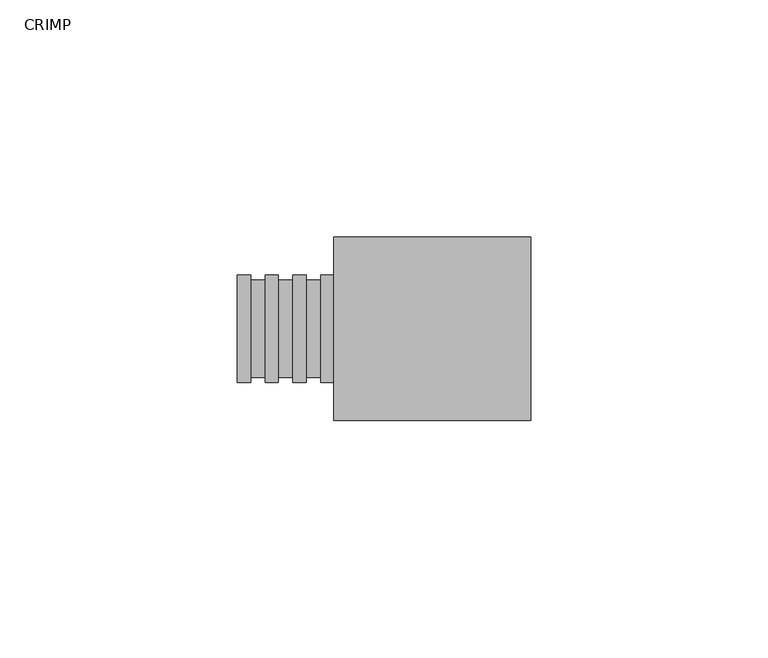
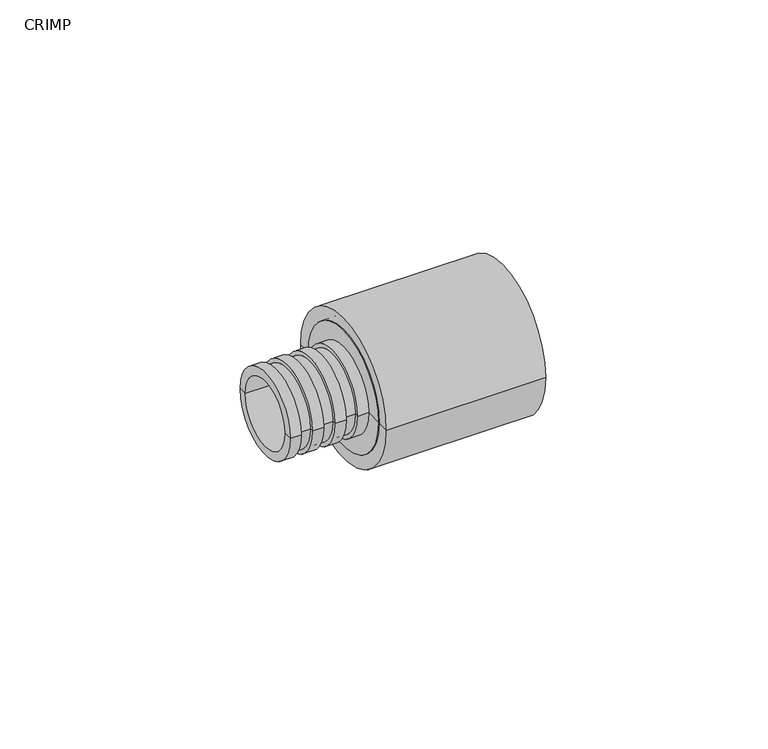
"""IFC4 building model written with IfcOpenShell, lengths in millimetres: valve geometry, Aquatherm - PEX Adapter Crimp : CRIMP."""

from ifc_helpers import new_model, si_unit, frame, origin, place, context, project, spatial, polyline, circle_curve, source, transform, mapped, element, save
from ifc_brep_helpers import plane_surface, cylinder_surface, revolved_surface, advanced_brep


def crimp_2105ca63(model_context):
    return source(origin(), model_context, "Body", "AdvancedBrep", [
        advanced_brep(
        [(3.175, -9.017, 0.0), (3.175, 9.017, 0.0), (-20.32, 9.017, 0.0), (-20.32, -9.017, 0.0), (3.175, -15.875, 0.0), (3.175, 15.875, 0.0), (-20.32, 11.303, 0.0), (-20.32, -11.303, 0.0), (-2.794, -11.303, 0.0), (-2.794, 11.303, 0.0), (0.0, 11.303, 0.0), (0.0, -11.303, 0.0), (-2.794, -10.287, 0.0), (-2.794, 10.287, 0.0), (-5.842, -10.287, 0.0), (-5.842, 10.287, 0.0), (-5.842, -11.303, 0.0), (-5.842, 11.303, 0.0), (-8.636, -11.303, 0.0), (-8.636, 11.303, 0.0), (-8.636, -10.287, 0.0), (-8.636, 10.287, 0.0), (-11.684, -10.287, 0.0), (-11.684, 10.287, 0.0), (-11.684, -11.303, 0.0), (-11.684, 11.303, 0.0), (-14.478, -11.303, 0.0), (-14.478, 11.303, 0.0), (-14.478, -10.287, 0.0), (-14.478, 10.287, 0.0), (-17.526, -10.287, 0.0), (-17.526, 10.287, 0.0), (-17.526, -11.303, 0.0), (-17.526, 11.303, 0.0), (0.0, -15.875, 0.0), (0.0, 15.875, 0.0)],
        [
            (0, 1, circle_curve(frame((3.175, 0.0, 0.0), z_axis=(1.0, 0.0, 0.0), x_axis=(0.0, 1.0, 0.0)), 9.017)),
            (1, 2),
            (2, 3, circle_curve(frame((-20.32, 0.0, 0.0), z_axis=(-1.0, 0.0, 0.0), x_axis=(0.0, 1.0, 0.0)), 9.017)),
            (3, 0),
            (1, 0, circle_curve(frame((3.175, 0.0, 0.0), z_axis=(1.0, 0.0, 0.0), x_axis=(0.0, 1.0, 0.0)), 9.017)),
            (3, 2, circle_curve(frame((-20.32, 0.0, 0.0), z_axis=(-1.0, 0.0, 0.0), x_axis=(0.0, 1.0, 0.0)), 9.017)),
            (4, 5, circle_curve(frame((3.175, 0.0, 0.0), z_axis=(1.0, 0.0, 0.0), x_axis=(0.0, 1.0, 0.0)), 15.875)),
            (5, 1),
            (0, 4),
            (5, 4, circle_curve(frame((3.175, 0.0, 0.0), z_axis=(1.0, 0.0, 0.0), x_axis=(0.0, 1.0, 0.0)), 15.875)),
            (2, 6),
            (6, 7, circle_curve(frame((-20.32, 0.0, 0.0), z_axis=(-1.0, 0.0, 0.0), x_axis=(0.0, 1.0, 0.0)), 11.303)),
            (7, 3),
            (7, 6, circle_curve(frame((-20.32, 0.0, 0.0), z_axis=(-1.0, 0.0, 0.0), x_axis=(0.0, 1.0, 0.0)), 11.303)),
            (8, 9, circle_curve(frame((-2.794, 0.0, 0.0), z_axis=(1.0, 0.0, 0.0), x_axis=(0.0, 1.0, 0.0)), 11.303)),
            (9, 10),
            (10, 11, circle_curve(frame((0.0, 0.0, 0.0), z_axis=(-1.0, 0.0, 0.0), x_axis=(0.0, 1.0, 0.0)), 11.303)),
            (11, 8),
            (9, 8, circle_curve(frame((-2.794, 0.0, 0.0), z_axis=(1.0, 0.0, 0.0), x_axis=(0.0, 1.0, 0.0)), 11.303)),
            (11, 10, circle_curve(frame((0.0, 0.0, 0.0), z_axis=(-1.0, 0.0, 0.0), x_axis=(0.0, 1.0, 0.0)), 11.303)),
            (12, 13, circle_curve(frame((-2.794, 0.0, 0.0), z_axis=(1.0, 0.0, 0.0), x_axis=(0.0, 1.0, 0.0)), 10.287)),
            (13, 9),
            (8, 12),
            (13, 12, circle_curve(frame((-2.794, 0.0, 0.0), z_axis=(1.0, 0.0, 0.0), x_axis=(0.0, 1.0, 0.0)), 10.287)),
            (14, 15, circle_curve(frame((-5.842, 0.0, 0.0), z_axis=(1.0, 0.0, 0.0), x_axis=(0.0, 1.0, 0.0)), 10.287)),
            (15, 13),
            (12, 14),
            (15, 14, circle_curve(frame((-5.842, 0.0, 0.0), z_axis=(1.0, 0.0, 0.0), x_axis=(0.0, 1.0, 0.0)), 10.287)),
            (16, 17, circle_curve(frame((-5.842, 0.0, 0.0), z_axis=(1.0, 0.0, 0.0), x_axis=(0.0, 1.0, 0.0)), 11.303)),
            (17, 15),
            (14, 16),
            (17, 16, circle_curve(frame((-5.842, 0.0, 0.0), z_axis=(1.0, 0.0, 0.0), x_axis=(0.0, 1.0, 0.0)), 11.303)),
            (18, 19, circle_curve(frame((-8.636, 0.0, 0.0), z_axis=(1.0, 0.0, 0.0), x_axis=(0.0, 1.0, 0.0)), 11.303)),
            (19, 17),
            (16, 18),
            (19, 18, circle_curve(frame((-8.636, 0.0, 0.0), z_axis=(1.0, 0.0, 0.0), x_axis=(0.0, 1.0, 0.0)), 11.303)),
            (20, 21, circle_curve(frame((-8.636, 0.0, 0.0), z_axis=(1.0, 0.0, 0.0), x_axis=(0.0, 1.0, 0.0)), 10.287)),
            (21, 19),
            (18, 20),
            (21, 20, circle_curve(frame((-8.636, 0.0, 0.0), z_axis=(1.0, 0.0, 0.0), x_axis=(0.0, 1.0, 0.0)), 10.287)),
            (22, 23, circle_curve(frame((-11.684, 0.0, 0.0), z_axis=(1.0, 0.0, 0.0), x_axis=(0.0, 1.0, 0.0)), 10.287)),
            (23, 21),
            (20, 22),
            (23, 22, circle_curve(frame((-11.684, 0.0, 0.0), z_axis=(1.0, 0.0, 0.0), x_axis=(0.0, 1.0, 0.0)), 10.287)),
            (24, 25, circle_curve(frame((-11.684, 0.0, 0.0), z_axis=(1.0, 0.0, 0.0), x_axis=(0.0, 1.0, 0.0)), 11.303)),
            (25, 23),
            (22, 24),
            (25, 24, circle_curve(frame((-11.684, 0.0, 0.0), z_axis=(1.0, 0.0, 0.0), x_axis=(0.0, 1.0, 0.0)), 11.303)),
            (26, 27, circle_curve(frame((-14.478, 0.0, 0.0), z_axis=(1.0, 0.0, 0.0), x_axis=(0.0, 1.0, 0.0)), 11.303)),
            (27, 25),
            (24, 26),
            (27, 26, circle_curve(frame((-14.478, 0.0, 0.0), z_axis=(1.0, 0.0, 0.0), x_axis=(0.0, 1.0, 0.0)), 11.303)),
            (28, 29, circle_curve(frame((-14.478, 0.0, 0.0), z_axis=(1.0, 0.0, 0.0), x_axis=(0.0, 1.0, 0.0)), 10.287)),
            (29, 27),
            (26, 28),
            (29, 28, circle_curve(frame((-14.478, 0.0, 0.0), z_axis=(1.0, 0.0, 0.0), x_axis=(0.0, 1.0, 0.0)), 10.287)),
            (30, 31, circle_curve(frame((-17.526, 0.0, 0.0), z_axis=(1.0, 0.0, 0.0), x_axis=(0.0, 1.0, 0.0)), 10.287)),
            (31, 29),
            (28, 30),
            (31, 30, circle_curve(frame((-17.526, 0.0, 0.0), z_axis=(1.0, 0.0, 0.0), x_axis=(0.0, 1.0, 0.0)), 10.287)),
            (32, 33, circle_curve(frame((-17.526, 0.0, 0.0), z_axis=(1.0, 0.0, 0.0), x_axis=(0.0, 1.0, 0.0)), 11.303)),
            (33, 31),
            (30, 32),
            (33, 32, circle_curve(frame((-17.526, 0.0, 0.0), z_axis=(1.0, 0.0, 0.0), x_axis=(0.0, 1.0, 0.0)), 11.303)),
            (6, 33),
            (32, 7),
            (34, 35, circle_curve(frame((0.0, 0.0, 0.0), z_axis=(1.0, 0.0, 0.0), x_axis=(0.0, 1.0, 0.0)), 15.875)),
            (35, 5),
            (4, 34),
            (35, 34, circle_curve(frame((0.0, 0.0, 0.0), z_axis=(1.0, 0.0, 0.0), x_axis=(0.0, 1.0, 0.0)), 15.875)),
            (10, 35),
            (34, 11),
        ],
        [
            revolved_surface(polyline([(-20.32, 9.017, 0.0), (3.1750000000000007, 9.017, 0.0)]), (-31.877, 0.0, 0.0), (-1.0, 0.0, 0.0)),
            plane_surface(frame((3.175, 0.0, 0.0), z_axis=(1.0, 0.0, 0.0), x_axis=(0.0, 1.0, 0.0))),
            plane_surface(frame((-20.32, 0.0, 0.0), z_axis=(-1.0, 0.0, 0.0), x_axis=(0.0, 1.0, 0.0))),
            cylinder_surface(frame((-31.877, 0.0, 0.0), z_axis=(-1.0, 0.0, 0.0), x_axis=(0.0, 1.0, 0.0)), 11.303),
            plane_surface(frame((-2.794, 0.0, 0.0), z_axis=(-1.0, 0.0, 0.0), x_axis=(0.0, 1.0, 0.0))),
            cylinder_surface(frame((-31.877, 0.0, 0.0), z_axis=(-1.0, 0.0, 0.0), x_axis=(0.0, 1.0, 0.0)), 10.287),
            plane_surface(frame((-5.842, 0.0, 0.0), z_axis=(1.0, 0.0, 0.0), x_axis=(0.0, 1.0, 0.0))),
            plane_surface(frame((-8.636, 0.0, 0.0), z_axis=(-1.0, 0.0, 0.0), x_axis=(0.0, 1.0, 0.0))),
            plane_surface(frame((-11.684, 0.0, 0.0), z_axis=(1.0, 0.0, 0.0), x_axis=(0.0, 1.0, 0.0))),
            plane_surface(frame((-14.478, 0.0, 0.0), z_axis=(-1.0, 0.0, 0.0), x_axis=(0.0, 1.0, 0.0))),
            plane_surface(frame((-17.526, 0.0, 0.0), z_axis=(1.0, 0.0, 0.0), x_axis=(0.0, 1.0, 0.0))),
            cylinder_surface(frame((-31.877, 0.0, 0.0), z_axis=(-1.0, 0.0, 0.0), x_axis=(0.0, 1.0, 0.0)), 15.875),
            plane_surface(frame((0.0, 0.0, 0.0), z_axis=(-1.0, 0.0, 0.0), x_axis=(0.0, 1.0, 0.0))),
        ],
        [
            (0, [[1, 2, 3, 4]]),
            (0, [[5, -4, 6, -2]]),
            (1, [[7, 8, -1, 9]]),
            (1, [[10, -9, -5, -8]]),
            (2, [[-3, 11, 12, 13]]),
            (2, [[-6, -13, 14, -11]]),
            (3, [[15, 16, 17, 18]]),
            (3, [[19, -18, 20, -16]]),
            (4, [[21, 22, -15, 23]]),
            (4, [[24, -23, -19, -22]]),
            (5, [[25, 26, -21, 27]]),
            (5, [[28, -27, -24, -26]]),
            (6, [[29, 30, -25, 31]]),
            (6, [[32, -31, -28, -30]]),
            (3, [[33, 34, -29, 35]]),
            (3, [[36, -35, -32, -34]]),
            (7, [[37, 38, -33, 39]]),
            (7, [[40, -39, -36, -38]]),
            (5, [[41, 42, -37, 43]]),
            (5, [[44, -43, -40, -42]]),
            (8, [[45, 46, -41, 47]]),
            (8, [[48, -47, -44, -46]]),
            (3, [[49, 50, -45, 51]]),
            (3, [[52, -51, -48, -50]]),
            (9, [[53, 54, -49, 55]]),
            (9, [[56, -55, -52, -54]]),
            (5, [[57, 58, -53, 59]]),
            (5, [[60, -59, -56, -58]]),
            (10, [[61, 62, -57, 63]]),
            (10, [[64, -63, -60, -62]]),
            (3, [[-12, 65, -61, 66]]),
            (3, [[-14, -66, -64, -65]]),
            (11, [[67, 68, -7, 69]]),
            (11, [[70, -69, -10, -68]]),
            (12, [[-17, 71, -67, 72]]),
            (12, [[-20, -72, -70, -71]]),
        ],
    ),
        advanced_brep(
        [(0.0, -19.304, 0.0), (0.0, 19.304, 0.0), (41.402, 19.304, 0.0), (41.402, -19.304, 0.0), (0.0, -15.875, 0.0), (0.0, 15.875, 0.0), (3.175, -15.875, 0.0), (3.175, 15.875, 0.0), (3.175, -9.017, 0.0), (3.175, 9.017, 0.0), (41.402, -15.875, 0.0), (41.402, 15.875, 0.0), (19.05, 15.875, 0.0), (19.05, -15.875, 0.0), (19.05, -9.017, 0.0), (19.05, 9.017, 0.0)],
        [
            (0, 1, circle_curve(frame((0.0, 0.0, 0.0), z_axis=(1.0, 0.0, 0.0), x_axis=(0.0, 1.0, 0.0)), 19.304)),
            (1, 2),
            (2, 3, circle_curve(frame((41.402, 0.0, 0.0), z_axis=(-1.0, 0.0, 0.0), x_axis=(0.0, 1.0, 0.0)), 19.304)),
            (3, 0),
            (1, 0, circle_curve(frame((0.0, 0.0, 0.0), z_axis=(1.0, 0.0, 0.0), x_axis=(0.0, 1.0, 0.0)), 19.304)),
            (3, 2, circle_curve(frame((41.402, 0.0, 0.0), z_axis=(-1.0, 0.0, 0.0), x_axis=(0.0, 1.0, 0.0)), 19.304)),
            (4, 5, circle_curve(frame((0.0, 0.0, 0.0), z_axis=(1.0, 0.0, 0.0), x_axis=(0.0, 1.0, 0.0)), 15.875)),
            (5, 1),
            (0, 4),
            (5, 4, circle_curve(frame((0.0, 0.0, 0.0), z_axis=(1.0, 0.0, 0.0), x_axis=(0.0, 1.0, 0.0)), 15.875)),
            (6, 7, circle_curve(frame((3.175, 0.0, 0.0), z_axis=(1.0, 0.0, 0.0), x_axis=(0.0, 1.0, 0.0)), 15.875)),
            (7, 5),
            (4, 6),
            (7, 6, circle_curve(frame((3.175, 0.0, 0.0), z_axis=(1.0, 0.0, 0.0), x_axis=(0.0, 1.0, 0.0)), 15.875)),
            (8, 9, circle_curve(frame((3.175, 0.0, 0.0), z_axis=(1.0, 0.0, 0.0), x_axis=(0.0, 1.0, 0.0)), 9.017)),
            (9, 7),
            (6, 8),
            (9, 8, circle_curve(frame((3.175, 0.0, 0.0), z_axis=(1.0, 0.0, 0.0), x_axis=(0.0, 1.0, 0.0)), 9.017)),
            (10, 11, circle_curve(frame((41.402, 0.0, 0.0), z_axis=(1.0, 0.0, 0.0), x_axis=(0.0, 1.0, 0.0)), 15.875)),
            (11, 12),
            (12, 13, circle_curve(frame((19.05, 0.0, 0.0), z_axis=(-1.0, 0.0, 0.0), x_axis=(0.0, 1.0, 0.0)), 15.875)),
            (13, 10),
            (11, 10, circle_curve(frame((41.402, 0.0, 0.0), z_axis=(1.0, 0.0, 0.0), x_axis=(0.0, 1.0, 0.0)), 15.875)),
            (13, 12, circle_curve(frame((19.05, 0.0, 0.0), z_axis=(-1.0, 0.0, 0.0), x_axis=(0.0, 1.0, 0.0)), 15.875)),
            (2, 11),
            (10, 3),
            (14, 15, circle_curve(frame((19.05, 0.0, 0.0), z_axis=(1.0, 0.0, 0.0), x_axis=(0.0, 1.0, 0.0)), 9.017)),
            (15, 9),
            (8, 14),
            (15, 14, circle_curve(frame((19.05, 0.0, 0.0), z_axis=(1.0, 0.0, 0.0), x_axis=(0.0, 1.0, 0.0)), 9.017)),
            (12, 15),
            (14, 13),
        ],
        [
            cylinder_surface(frame((-45.72, 0.0, 0.0), z_axis=(-1.0, 0.0, 0.0), x_axis=(0.0, 1.0, 0.0)), 19.304),
            plane_surface(frame((0.0, 0.0, 0.0), z_axis=(-1.0, 0.0, 0.0), x_axis=(0.0, 1.0, 0.0))),
            revolved_surface(polyline([(0.0, 15.875, 0.0), (3.174999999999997, 15.875, 0.0)]), (-45.72, 0.0, 0.0), (-1.0, 0.0, 0.0)),
            plane_surface(frame((3.175, 0.0, 0.0), z_axis=(-1.0, 0.0, 0.0), x_axis=(0.0, 1.0, 0.0))),
            revolved_surface(polyline([(19.049999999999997, 15.875, 0.0), (41.402, 15.875, 0.0)]), (-45.72, 0.0, 0.0), (-1.0, 0.0, 0.0)),
            plane_surface(frame((41.402, 0.0, 0.0), z_axis=(1.0, 0.0, 0.0), x_axis=(0.0, 1.0, 0.0))),
            revolved_surface(polyline([(3.174999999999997, 9.017, 0.0), (19.049999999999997, 9.017, 0.0)]), (-45.72, 0.0, 0.0), (-1.0, 0.0, 0.0)),
            plane_surface(frame((19.05, 0.0, 0.0), z_axis=(1.0, 0.0, 0.0), x_axis=(0.0, 1.0, 0.0))),
        ],
        [
            (0, [[1, 2, 3, 4]]),
            (0, [[5, -4, 6, -2]]),
            (1, [[7, 8, -1, 9]]),
            (1, [[10, -9, -5, -8]]),
            (2, [[11, 12, -7, 13]]),
            (2, [[14, -13, -10, -12]]),
            (3, [[15, 16, -11, 17]]),
            (3, [[18, -17, -14, -16]]),
            (4, [[19, 20, 21, 22]]),
            (4, [[23, -22, 24, -20]]),
            (5, [[-3, 25, -19, 26]]),
            (5, [[-6, -26, -23, -25]]),
            (6, [[27, 28, -15, 29]]),
            (6, [[30, -29, -18, -28]]),
            (7, [[-21, 31, -27, 32]]),
            (7, [[-24, -32, -30, -31]]),
        ],
    ),
    ])


if __name__ == "__main__":
    model = new_model("IFC4")
    model_context = context("Model", 3, world=origin())
    ifc_project = project(units=[si_unit("LENGTHUNIT", "METRE", prefix="MILLI")], contexts=[model_context])
    site = spatial("IfcSite", under=ifc_project)
    building = spatial("IfcBuilding", under=site)
    placement = place(None, origin())
    crimp_shape = crimp_2105ca63(model_context)
    element("IfcValve", 1, ObjectType="Aquatherm - PEX Adapter Crimp : CRIMP", at=placement, inside=building, context=model_context, shape_type="MappedRepresentation", body=[
        mapped(crimp_shape, transform((0.0, 0.0, 0.0), x_axis=(1.0, 0.0, 0.0), y_axis=(0.0, 1.0, 0.0), z_axis=(0.0, 0.0, 1.0))),
    ])
    save(model, "model.ifc")
